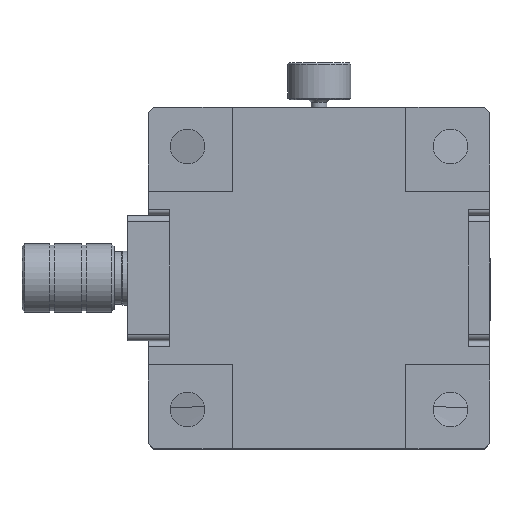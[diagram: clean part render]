
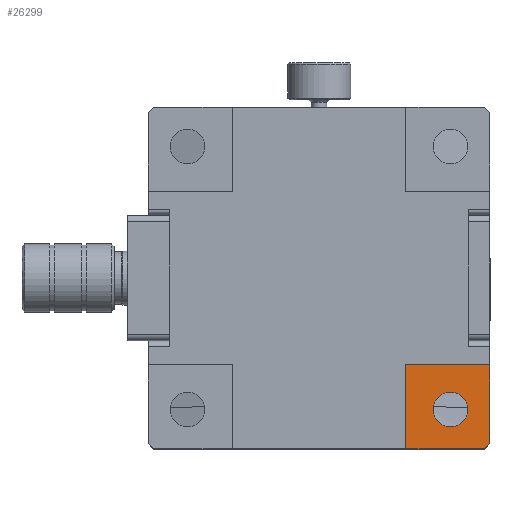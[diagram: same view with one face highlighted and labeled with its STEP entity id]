
A CAD part, top view. The second image highlights one B-rep face of the part: STEP entity #26299.
In plain terms, the highlighted planar face has unit normal (0, 0, 1).
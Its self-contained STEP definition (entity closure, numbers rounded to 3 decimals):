
#661 = CARTESIAN_POINT ( 'NONE',  ( 73.695, -47.833, 22.465 ) ) ;
#762 = AXIS2_PLACEMENT_3D ( 'NONE', #21251, #13227, #12686 ) ;
#1154 = EDGE_CURVE ( 'NONE', #26777, #8554, #18605, .T. ) ;
#1303 = DIRECTION ( 'NONE',  ( -1., 0., 0. ) ) ;
#1551 = FACE_BOUND ( 'NONE', #30828, .T. ) ;
#2451 = EDGE_CURVE ( 'NONE', #32064, #9066, #3682, .T. ) ;
#3205 = ORIENTED_EDGE ( 'NONE', *, *, #2451, .T. ) ;
#3682 = LINE ( 'NONE', #9152, #28996 ) ;
#4294 = DIRECTION ( 'NONE',  ( 0.707, 0.707, 0. ) ) ;
#4731 = CARTESIAN_POINT ( 'NONE',  ( 56.695, -79.833, 22.465 ) ) ;
#5416 = LINE ( 'NONE', #33183, #36070 ) ;
#5717 = VECTOR ( 'NONE', #4294, 1000. ) ;
#7396 = VERTEX_POINT ( 'NONE', #18537 ) ;
#7551 = CARTESIAN_POINT ( 'NONE',  ( 89.695, -31.833, 22.465 ) ) ;
#8554 = VERTEX_POINT ( 'NONE', #21951 ) ;
#9066 = VERTEX_POINT ( 'NONE', #34348 ) ;
#9152 = CARTESIAN_POINT ( 'NONE',  ( 89.695, -31.833, 22.465 ) ) ;
#9737 = CARTESIAN_POINT ( 'NONE',  ( 73.695, -47.833, 22.465 ) ) ;
#10176 = EDGE_CURVE ( 'NONE', #9066, #32018, #35123, .T. ) ;
#12686 = DIRECTION ( 'NONE',  ( 1., 0., 0. ) ) ;
#13227 = DIRECTION ( 'NONE',  ( 0., 0., 1. ) ) ;
#14013 = DIRECTION ( 'NONE',  ( -1., 0., 0. ) ) ;
#14553 = EDGE_CURVE ( 'NONE', #8554, #32064, #24672, .T. ) ;
#14582 = ORIENTED_EDGE ( 'NONE', *, *, #21103, .T. ) ;
#14591 = VECTOR ( 'NONE', #21746, 1000. ) ;
#15397 = DIRECTION ( 'NONE',  ( 0., -1., 0. ) ) ;
#15953 = EDGE_CURVE ( 'NONE', #7396, #7396, #25110, .T. ) ;
#17189 = VECTOR ( 'NONE', #15397, 1000. ) ;
#18537 = CARTESIAN_POINT ( 'NONE',  ( 78.895, -40.333, 22.465 ) ) ;
#18605 = LINE ( 'NONE', #4731, #5717 ) ;
#18871 = ORIENTED_EDGE ( 'NONE', *, *, #15953, .T. ) ;
#21074 = PLANE ( 'NONE',  #762 ) ;
#21103 = EDGE_CURVE ( 'NONE', #32018, #26777, #5416, .T. ) ;
#21251 = CARTESIAN_POINT ( 'NONE',  ( 24.695, -47.833, 22.465 ) ) ;
#21746 = DIRECTION ( 'NONE',  ( 0., 1., 0. ) ) ;
#21951 = CARTESIAN_POINT ( 'NONE',  ( 89.695, -46.833, 22.465 ) ) ;
#22570 = CARTESIAN_POINT ( 'NONE',  ( 82.195, -40.333, 22.465 ) ) ;
#23231 = CARTESIAN_POINT ( 'NONE',  ( 88.695, -47.833, 22.465 ) ) ;
#24672 = LINE ( 'NONE', #27230, #14591 ) ;
#25110 = CIRCLE ( 'NONE', #29762, 3.3 ) ;
#25320 = DIRECTION ( 'NONE',  ( 0., 0., -1. ) ) ;
#25655 = ORIENTED_EDGE ( 'NONE', *, *, #1154, .T. ) ;
#26299 = ADVANCED_FACE ( 'NONE', ( #1551, #26919 ), #21074, .T. ) ;
#26777 = VERTEX_POINT ( 'NONE', #23231 ) ;
#26886 = ORIENTED_EDGE ( 'NONE', *, *, #14553, .T. ) ;
#26919 = FACE_OUTER_BOUND ( 'NONE', #32986, .T. ) ;
#27230 = CARTESIAN_POINT ( 'NONE',  ( 89.695, -47.833, 22.465 ) ) ;
#28996 = VECTOR ( 'NONE', #1303, 1000. ) ;
#29762 = AXIS2_PLACEMENT_3D ( 'NONE', #22570, #25320, #14013 ) ;
#30828 = EDGE_LOOP ( 'NONE', ( #18871 ) ) ;
#32018 = VERTEX_POINT ( 'NONE', #661 ) ;
#32064 = VERTEX_POINT ( 'NONE', #7551 ) ;
#32986 = EDGE_LOOP ( 'NONE', ( #14582, #25655, #26886, #3205, #35858 ) ) ;
#33183 = CARTESIAN_POINT ( 'NONE',  ( 24.695, -47.833, 22.465 ) ) ;
#34348 = CARTESIAN_POINT ( 'NONE',  ( 73.695, -31.833, 22.465 ) ) ;
#35123 = LINE ( 'NONE', #9737, #17189 ) ;
#35543 = DIRECTION ( 'NONE',  ( 1., 0., 0. ) ) ;
#35858 = ORIENTED_EDGE ( 'NONE', *, *, #10176, .T. ) ;
#36070 = VECTOR ( 'NONE', #35543, 1000. ) ;
